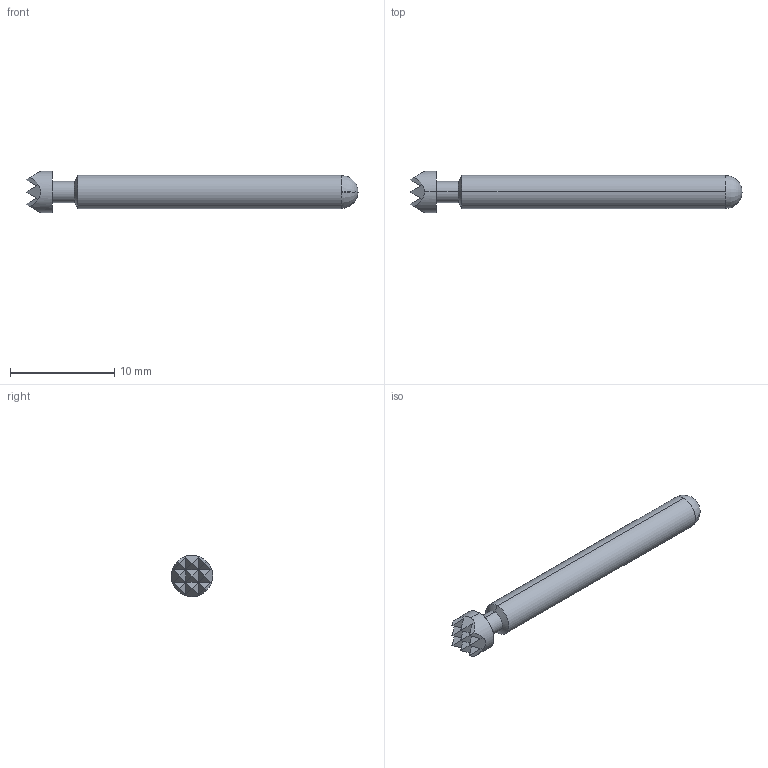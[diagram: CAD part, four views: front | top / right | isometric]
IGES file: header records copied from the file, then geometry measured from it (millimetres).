
Start section: SolidWorks IGES file using analytic representation for surfaces
Global section: file name: Z:\probe solid model mockups\Solidworks models\IGES Files\HCP-15 IGES files\HCP-15H RECD.IGS; native system: SolidWorks 2006 by SolidWorks Corporation; preprocessor: SolidWorks 2006 by SolidWorks Corporation; author: tsakatani; date: 071202.143843; units: inch
Bounding box: 31.83 x 3.96 x 3.96 mm (x, y, z)
Surface area: 338.9 mm2 (no closed solid volume)
Topology: 0 solids, 0 shells, 39 faces, 266 edges, 264 vertices
Faces by surface type: bspline 29, revolution 10
